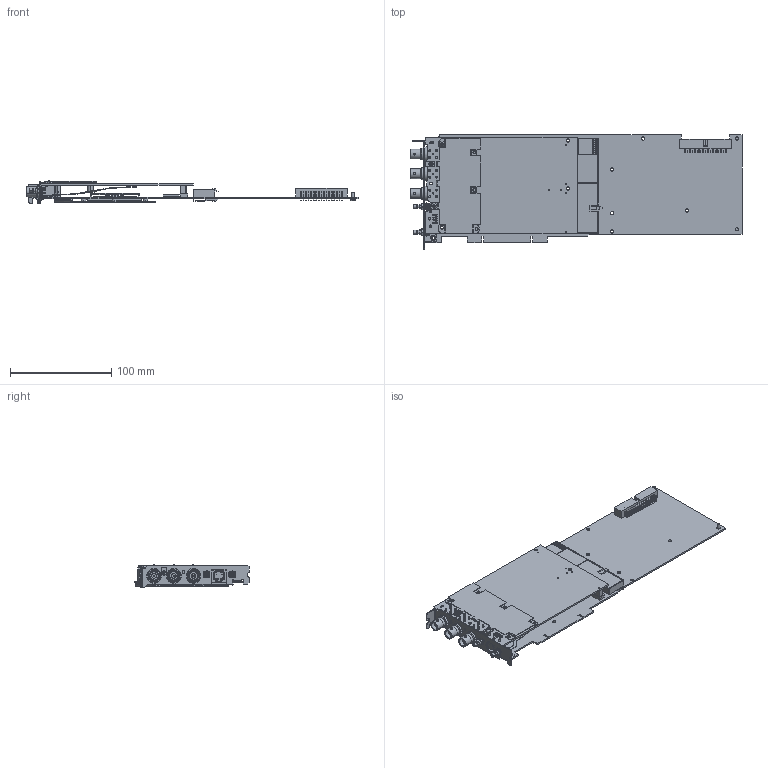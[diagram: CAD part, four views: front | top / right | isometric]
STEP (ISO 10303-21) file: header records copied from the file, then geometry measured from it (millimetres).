
FILE_DESCRIPTION((''),'2;1');
FILE_NAME('CU_PCI-5922','2009-12-01T',('jjorden'),(''),'PRO/ENGINEER BY PARAMETRIC TECHNOLOGY CORPORATION, 2006080','PRO/ENGINEER BY PARAMETRIC TECHNOLOGY CORPORATION, 2006080','');
FILE_SCHEMA(('CONFIG_CONTROL_DESIGN'));
Products named in the file (1): CU_PCI-5922
Bounding box: 327.63 x 112.88 x 22.35 mm (x, y, z)
Volume: 114918.3 mm3; surface area: 141069.2 mm2
Topology: 9 solids, 9 shells, 3895 faces, 10485 edges, 6802 vertices
Faces by surface type: plane 2662, cylinder 1084, bspline 87, cone 42, sphere 12, torus 6, extrusion 2
Entity records: 132567 total; most frequent: CARTESIAN_POINT 33150, ORIENTED_EDGE 20874, DIRECTION 19941, EDGE_CURVE 10437, VECTOR 7587, LINE 7585, VERTEX_POINT 6878, AXIS2_PLACEMENT_3D 6177
